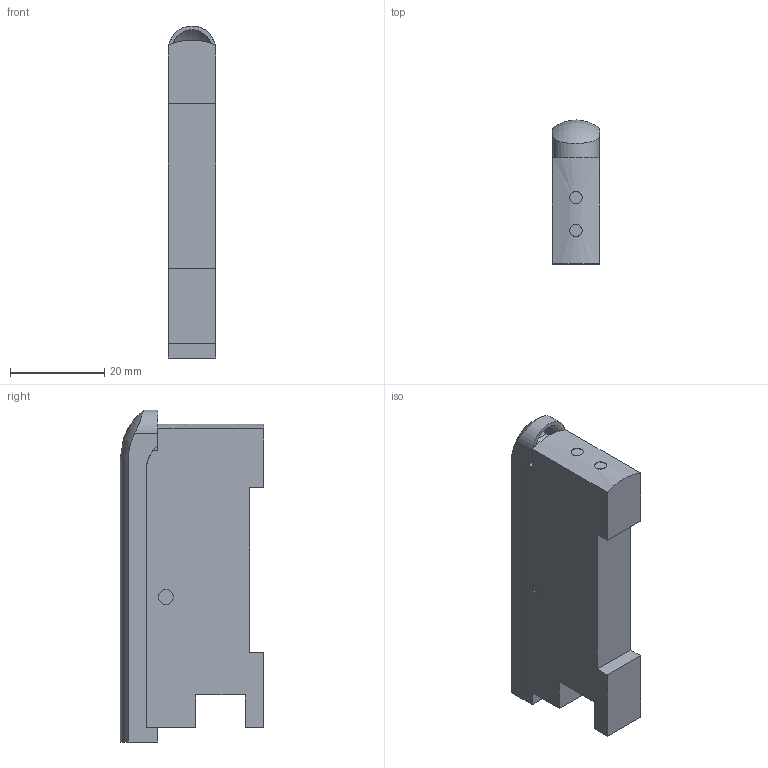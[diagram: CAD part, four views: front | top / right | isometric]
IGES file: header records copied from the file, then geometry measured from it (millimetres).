
Start section: SolidWorks IGES FILE using analytic representation for surfaces
Global section: file name: \\Intra-srv04\開発データ\CAD_Data\CAD委員会\3D電子ｶﾀﾛｸﾞ\製品カタログ（新）\0_IGES\FX-311.IGS,41HSolidWorks 2004; native system: by SolidWorks Corporation; preprocessor: Version 5.3; author: yk0651; date: 050905.102413; units: millimetre
Bounding box: 10 x 30.5 x 70.5 mm (x, y, z)
Volume: 16829.3 mm3; surface area: 7906.8 mm2
Topology: 2 solids, 2 shells, 131 faces, 334 edges, 218 vertices
Faces by surface type: plane 108, revolution 23
